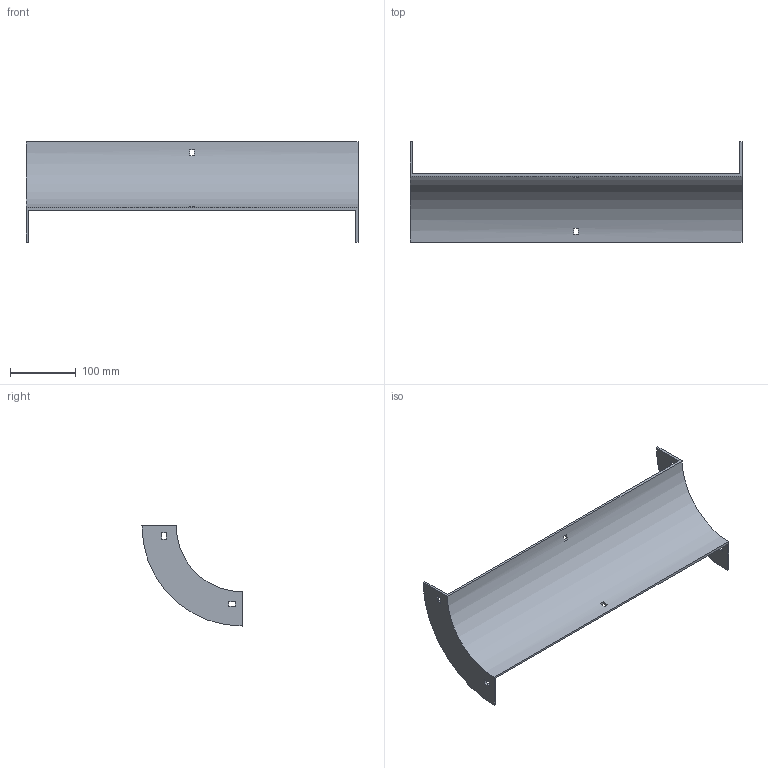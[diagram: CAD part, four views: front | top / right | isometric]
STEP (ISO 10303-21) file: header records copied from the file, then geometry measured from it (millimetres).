
FILE_DESCRIPTION (( 'STEP AP214' ), '1' );
FILE_NAME ('33B1B500.step', '2025-02-21T09:31:43', ( '' ), ( '' ), 'SwSTEP 2.0', 'SolidWorks 2023', '' );
FILE_SCHEMA (( 'AUTOMOTIVE_DESIGN' ));
Length unit declared in the file: millimetre
Products named in the file (1): 33B1B500
Bounding box: 504 x 152 x 152 mm (x, y, z)
Volume: 348669.6 mm3; surface area: 205794.9 mm2
Topology: 1 solids, 1 shells, 34 faces, 96 edges, 64 vertices
Faces by surface type: plane 30, cylinder 4
Entity records: 1143 total; most frequent: CARTESIAN_POINT 195, ORIENTED_EDGE 192, DIRECTION 182, EDGE_CURVE 96, VECTOR 80, LINE 80, VERTEX_POINT 64, AXIS2_PLACEMENT_3D 51
